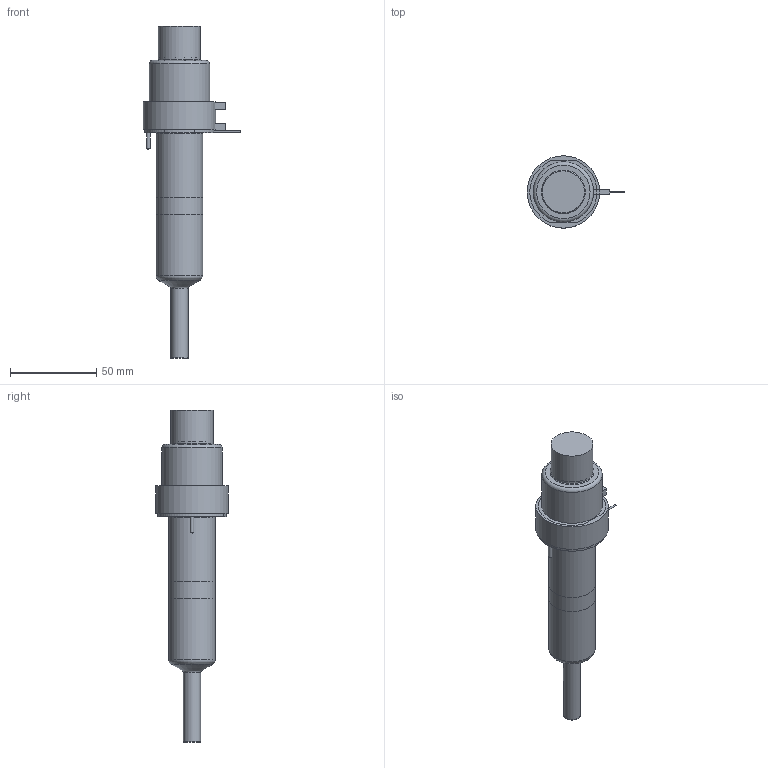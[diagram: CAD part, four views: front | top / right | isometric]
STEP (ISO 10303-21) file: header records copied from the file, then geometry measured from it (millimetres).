
FILE_DESCRIPTION(/* description */ (''),/* implementation_level */ '2;1');
FILE_NAME(/* name */ 'SXTSL-SXISL-SXOSL13095_250C_b',/* time_stamp */ '2008-04-30T09:06:40+12:00',/* author */ (''),/* organization */ (''),/* preprocessor_version */ 'ST-DEVELOPER v9',/* originating_system */ 'UGS - NX 4.0',/* authorisation */ '');
FILE_SCHEMA (('CONFIG_CONTROL_DESIGN'));
Length unit declared in the file: millimetre
Products named in the file (1): SXTSL-SXISL-SXOSL13095_250C_b
Bounding box: 56.65 x 42 x 192.63 mm (x, y, z)
Volume: 192503.3 mm3; surface area: 35668.3 mm2
Topology: 7 solids, 7 shells, 92 faces, 180 edges, 116 vertices
Faces by surface type: plane 45, cylinder 28, torus 9, cone 9, bspline 1
Full cylindrical faces by diameter (mm): 0.9 x1, 1 x3, 2 x2, 6 x1, 9.61 x1, 10.01 x2, 12.6 x1, 22.2 x1, 24 x1, 24.4 x1, 27 x2, 31.8 x1, 35 x1, 40 x1, 42 x1
Entity records: 2250 total; most frequent: CARTESIAN_POINT 438, DIRECTION 382, ORIENTED_EDGE 268, AXIS2_PLACEMENT_3D 166, EDGE_LOOP 142, EDGE_CURVE 134, VERTEX_POINT 107, ADVANCED_FACE 92
